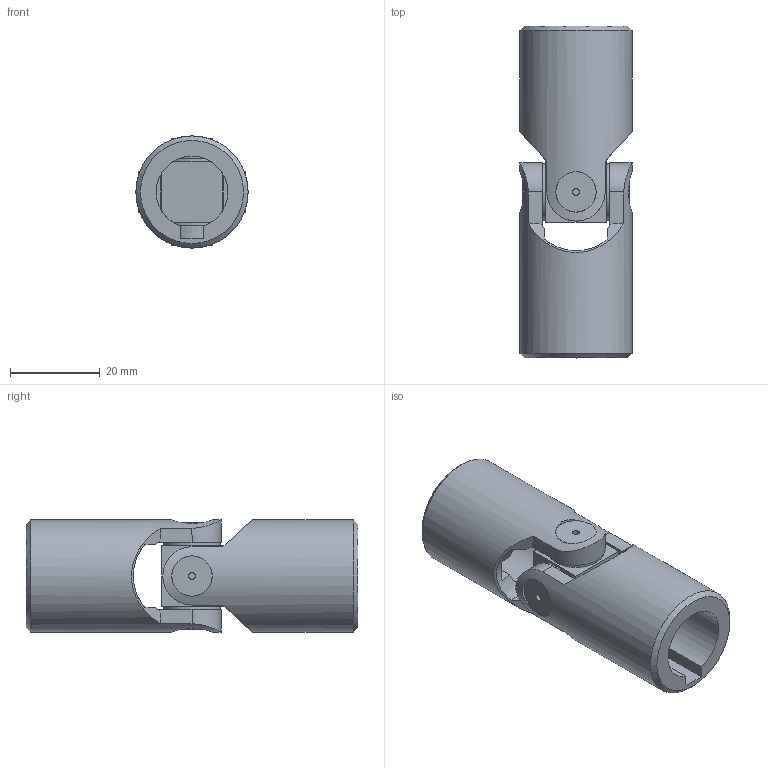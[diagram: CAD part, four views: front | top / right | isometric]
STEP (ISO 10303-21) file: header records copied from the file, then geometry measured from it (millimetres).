
FILE_DESCRIPTION(/* description */ ('EXTENSIBLE TRANSIMISSIONS Series G DIN 808 -2-'),/* implementation_level */ '2;1');
FILE_NAME(/* name */ '\\SRV2016\Societa\Stefano\Disegni 3D\Dis. Clienti\0000Catalogo 3D\01Singoli G-GB\Ø25_1GB-2C_SGBS162C.stp',/* time_stamp */ '2021-11-10T15:13:29+01:00',/* author */ ('acquisti'),/* organization */ ('MARIOFERRI'),/* preprocessor_version */ 'ST-DEVELOPER v15.6',/* originating_system */ 'Autodesk Inventor 2015',/* authorisation */ '');
FILE_SCHEMA (('AUTOMOTIVE_DESIGN { 1 0 10303 214 3 1 1 }'));
Length unit declared in the file: millimetre
Products named in the file (3): 04G SFE; 1GB MOC; Assieme6
Assembly tree (3 placements, depth 2):
  Assieme6
    04G SFE
    1GB MOC  x2
Bounding box: 25 x 74 x 25 mm (x, y, z)
Volume: 20681.6 mm3; surface area: 11236.9 mm2
Topology: 3 solids, 3 shells, 92 faces, 226 edges, 148 vertices
Faces by surface type: plane 46, cylinder 32, cone 10, torus 4
Full cylindrical faces by diameter (mm): 1.5 x4, 12.5 x4, 25 x2
Entity records: 1737 total; most frequent: CARTESIAN_POINT 518, DIRECTION 237, ORIENTED_EDGE 232, EDGE_CURVE 116, AXIS2_PLACEMENT_3D 100, VERTEX_POINT 82, EDGE_LOOP 70, FACE_OUTER_BOUND 53
